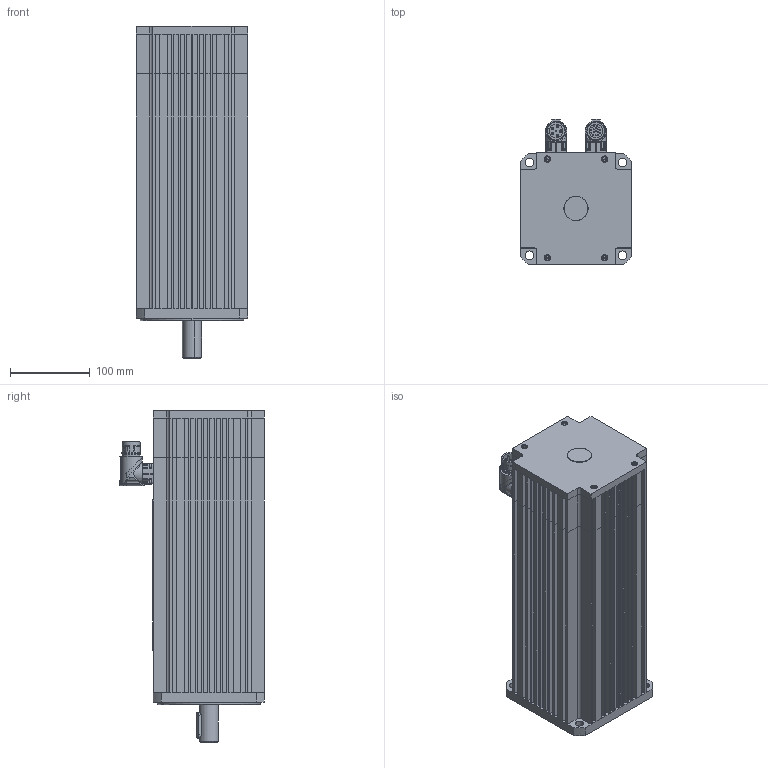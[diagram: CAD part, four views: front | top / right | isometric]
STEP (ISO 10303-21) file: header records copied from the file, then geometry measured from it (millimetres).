
FILE_DESCRIPTION((''),'2;1');
FILE_NAME('C:\Documents and Settings\arodrigo\Escritorio\FP MODIFICAR WEB\FP-3314 + Resolver + Brake\FP-3314 + Resolver + Brake2.stp','2016-01-08T16:31:40',('arodrigo'),(''),'Autodesk Inventor 9','Autodesk Inventor 9','');
FILE_SCHEMA(('AUTOMOTIVE_DESIGN { 1 0 10303 214 1 1 1 1 }'));
Length unit declared in the file: millimetre
Products named in the file (1): Pieza1
Bounding box: 140 x 182.15 x 417.4 mm (x, y, z)
Volume: 2642101.3 mm3; surface area: 642327.8 mm2
Topology: 52 solids, 64 shells, 1983 faces, 4978 edges, 2909 vertices
Faces by surface type: plane 780, cylinder 707, cone 242, sphere 132, torus 76, bspline 46
Entity records: 58366 total; most frequent: CARTESIAN_POINT 11568, DIRECTION 10453, ORIENTED_EDGE 9380, EDGE_CURVE 4690, AXIS2_PLACEMENT_3D 4074, VERTEX_POINT 2911, VECTOR 2305, LINE 2305
